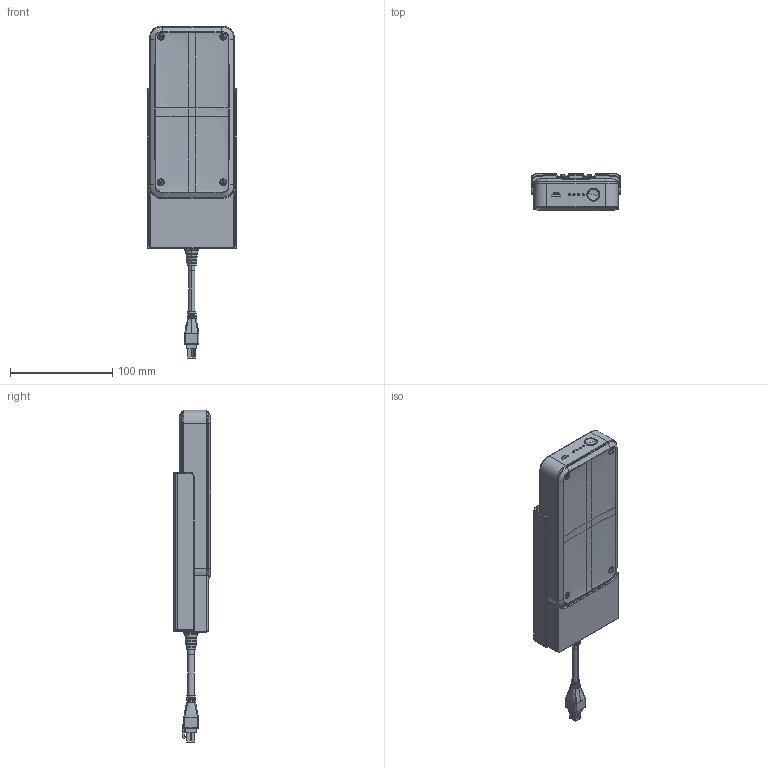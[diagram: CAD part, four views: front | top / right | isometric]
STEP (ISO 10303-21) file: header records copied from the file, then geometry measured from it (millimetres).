
FILE_DESCRIPTION (( 'STEP AP203' ), '1' );
FILE_NAME ('3D_TBB9.STEP', '2022-07-14T02:21:46', ( '' ), ( '' ), 'SwSTEP 2.0', 'SolidWorks 2015', '' );
FILE_SCHEMA (( 'CONFIG_CONTROL_DESIGN' ));
Products named in the file (1): 3D_TBB9
Bounding box: 87.6 x 36.62 x 324.81 mm (x, y, z)
Volume: 848000.9 mm3; surface area: 179302.9 mm2
Topology: 19 solids, 37 shells, 1238 faces, 2962 edges, 1817 vertices
Faces by surface type: plane 456, cylinder 348, bspline 195, torus 137, cone 62, sphere 40
Entity records: 57819 total; most frequent: CARTESIAN_POINT 30396, ORIENTED_EDGE 5896, DIRECTION 5448, EDGE_CURVE 2948, AXIS2_PLACEMENT_3D 2077, VERTEX_POINT 1817, VECTOR 1294, LINE 1294
